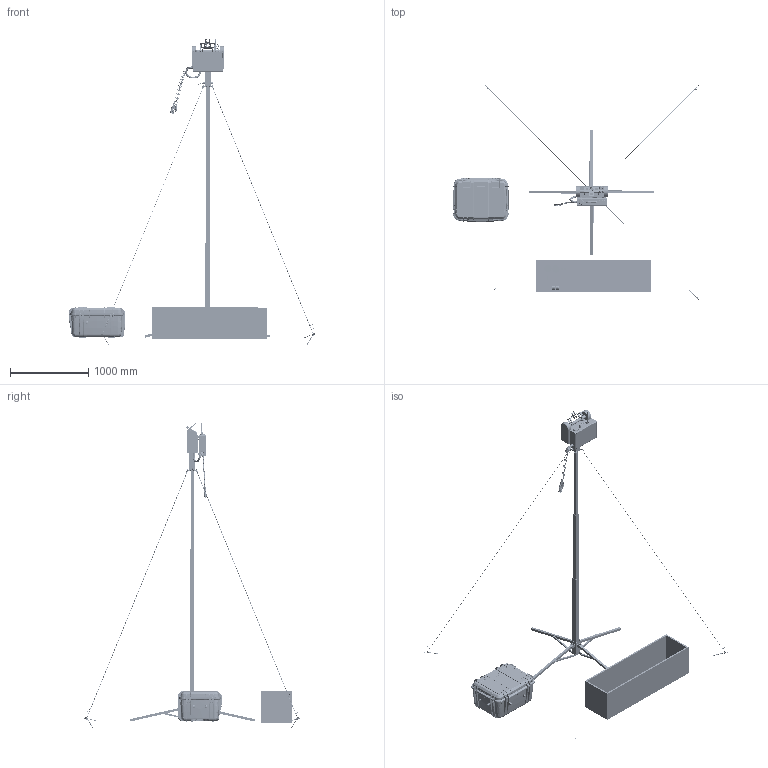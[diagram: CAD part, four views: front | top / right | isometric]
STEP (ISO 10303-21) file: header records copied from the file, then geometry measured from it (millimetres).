
FILE_DESCRIPTION(/* description */ ('','CAx-IF Rec.Pracs.---Representation and Presentation of Product Manufacturing Information (PMI)---3.8---2014-02-18'),/* implementation_level */ '2;1');
FILE_NAME(/* name */ 'C:\Users\plc5\Desktop\000 Ensamblaje 3d_Tracker - BASIC - dummy17.stp',/* time_stamp */ '2026-09-30T09:28:09+02:00',/* author */ ('plc5'),/* organization */ (''),/* preprocessor_version */ 'ST-DEVELOPER v16.13',/* originating_system */ 'Autodesk Inventor 2018',/* authorisation */ '');
FILE_SCHEMA (('AP242_MANAGED_MODEL_BASED_3D_ENGINEERING_MIM_LF { 1 0 10303 442 1 1 4 }'));
Products named in the file (1): 000 Ensamblaje 3d_Tracker - BASIC - dummy_Shrinkwrap_3
Bounding box: 3159.29 x 2760.5 x 3926.54 mm (x, y, z)
Surface area: 9562516.6 mm2 (no closed solid volume)
Topology: 0 solids, 574 shells, 8657 faces, 33451 edges, 23738 vertices
Faces by surface type: plane 3109, cylinder 2799, bspline 1156, torus 824, cone 706, sphere 63
Full cylindrical faces by diameter (mm): 1 x1, 1.15 x8, 1.25 x3, 1.442 x2, 1.981 x1, 2 x3, 2.459 x10, 2.5 x2, 3 x10, 3.219 x1, 3.242 x7, 3.5 x1, 3.509 x1, 4 x23, 4.134 x1, 4.8 x1, 4.917 x5, 5.08 x4, 5.5 x14, 5.588 x12, 5.7 x11, 5.842 x1, 5.9 x4, 6 x6, 6.223 x12, 6.35 x1, 6.5 x2, 6.647 x4, 6.9 x1, 6.93 x1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
Entity records: 572151 total; most frequent: CARTESIAN_POINT 297000, DIRECTION 56895, ORIENTED_EDGE 49149, EDGE_CURVE 32480, VERTEX_POINT 23522, AXIS2_PLACEMENT_3D 22265, LINE 12373, VECTOR 12373
